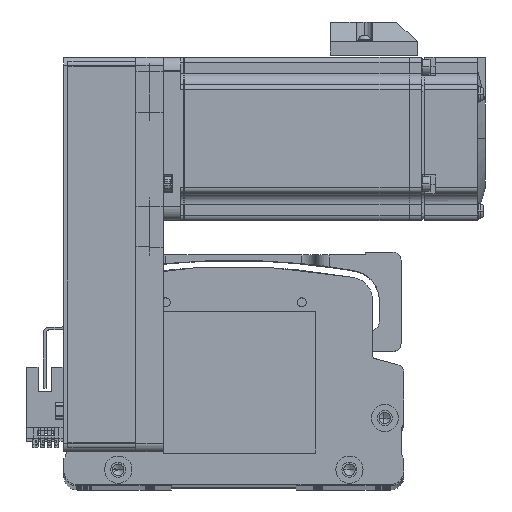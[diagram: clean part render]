
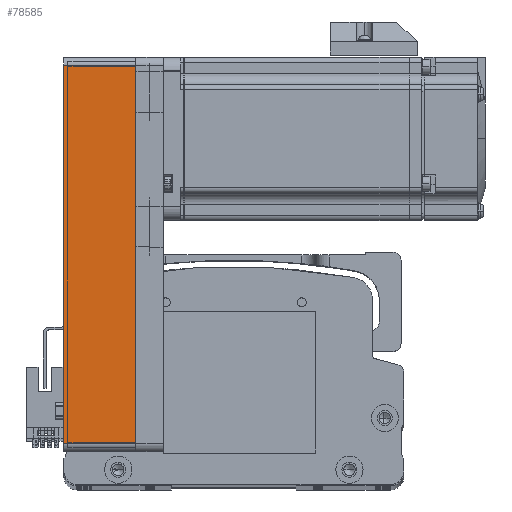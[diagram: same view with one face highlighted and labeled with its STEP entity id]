
A CAD part, top view. The second image highlights one B-rep face of the part: STEP entity #78585.
In plain terms, the highlighted planar face has unit normal (0, 0, 1) as drawn and (0, -1, 0) by its records, which use the part's own axes.
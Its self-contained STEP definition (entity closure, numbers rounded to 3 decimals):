
#10646 = DIRECTION ( 'NONE',  ( 1., 0., 0. ) ) ;
#16022 = VECTOR ( 'NONE', #79249, 1000. ) ;
#17606 = CARTESIAN_POINT ( 'NONE',  ( 69.5, -30., 0. ) ) ;
#22813 = EDGE_LOOP ( 'NONE', ( #60110, #68164, #31334, #60482 ) ) ;
#24087 = VECTOR ( 'NONE', #72414, 1000. ) ;
#24089 = DIRECTION ( 'NONE',  ( 0., 1., 0. ) ) ;
#31334 = ORIENTED_EDGE ( 'NONE', *, *, #75890, .F. ) ;
#36308 = VECTOR ( 'NONE', #55191, 1000. ) ;
#36677 = PLANE ( 'NONE',  #61454 ) ;
#39025 = VERTEX_POINT ( 'NONE', #69349 ) ;
#40343 = CARTESIAN_POINT ( 'NONE',  ( 69.5, -30., 26.5 ) ) ;
#49032 = CARTESIAN_POINT ( 'NONE',  ( 72.5, -30., 26.5 ) ) ;
#51799 = VERTEX_POINT ( 'NONE', #73047 ) ;
#52348 = EDGE_CURVE ( 'NONE', #54242, #71181, #55364, .T. ) ;
#54242 = VERTEX_POINT ( 'NONE', #69240 ) ;
#55191 = DIRECTION ( 'NONE',  ( 1., 0., 0. ) ) ;
#55364 = LINE ( 'NONE', #61435, #36308 ) ;
#60110 = ORIENTED_EDGE ( 'NONE', *, *, #52348, .T. ) ;
#60482 = ORIENTED_EDGE ( 'NONE', *, *, #81584, .T. ) ;
#61435 = CARTESIAN_POINT ( 'NONE',  ( 72.5, -30., 0. ) ) ;
#61454 = AXIS2_PLACEMENT_3D ( 'NONE', #62554, #24089, #68981 ) ;
#62554 = CARTESIAN_POINT ( 'NONE',  ( 72.5, -30., 26.5 ) ) ;
#63257 = LINE ( 'NONE', #72753, #16022 ) ;
#63694 = VECTOR ( 'NONE', #10646, 1000. ) ;
#65709 = LINE ( 'NONE', #49032, #63694 ) ;
#66065 = FACE_OUTER_BOUND ( 'NONE', #22813, .T. ) ;
#67068 = EDGE_CURVE ( 'NONE', #71181, #51799, #73300, .T. ) ;
#68164 = ORIENTED_EDGE ( 'NONE', *, *, #67068, .T. ) ;
#68981 = DIRECTION ( 'NONE',  ( -1., 0., 0. ) ) ;
#69240 = CARTESIAN_POINT ( 'NONE',  ( -69.5, -30., 0. ) ) ;
#69349 = CARTESIAN_POINT ( 'NONE',  ( -69.5, -30., 26.5 ) ) ;
#71181 = VERTEX_POINT ( 'NONE', #17606 ) ;
#72414 = DIRECTION ( 'NONE',  ( 0., 0., 1. ) ) ;
#72753 = CARTESIAN_POINT ( 'NONE',  ( -69.5, -30., 26.5 ) ) ;
#73047 = CARTESIAN_POINT ( 'NONE',  ( 69.5, -30., 26.5 ) ) ;
#73300 = LINE ( 'NONE', #40343, #24087 ) ;
#75890 = EDGE_CURVE ( 'NONE', #39025, #51799, #65709, .T. ) ;
#78585 = ADVANCED_FACE ( 'NONE', ( #66065 ), #36677, .F. ) ;
#79249 = DIRECTION ( 'NONE',  ( 0., 0., -1. ) ) ;
#81584 = EDGE_CURVE ( 'NONE', #39025, #54242, #63257, .T. ) ;
